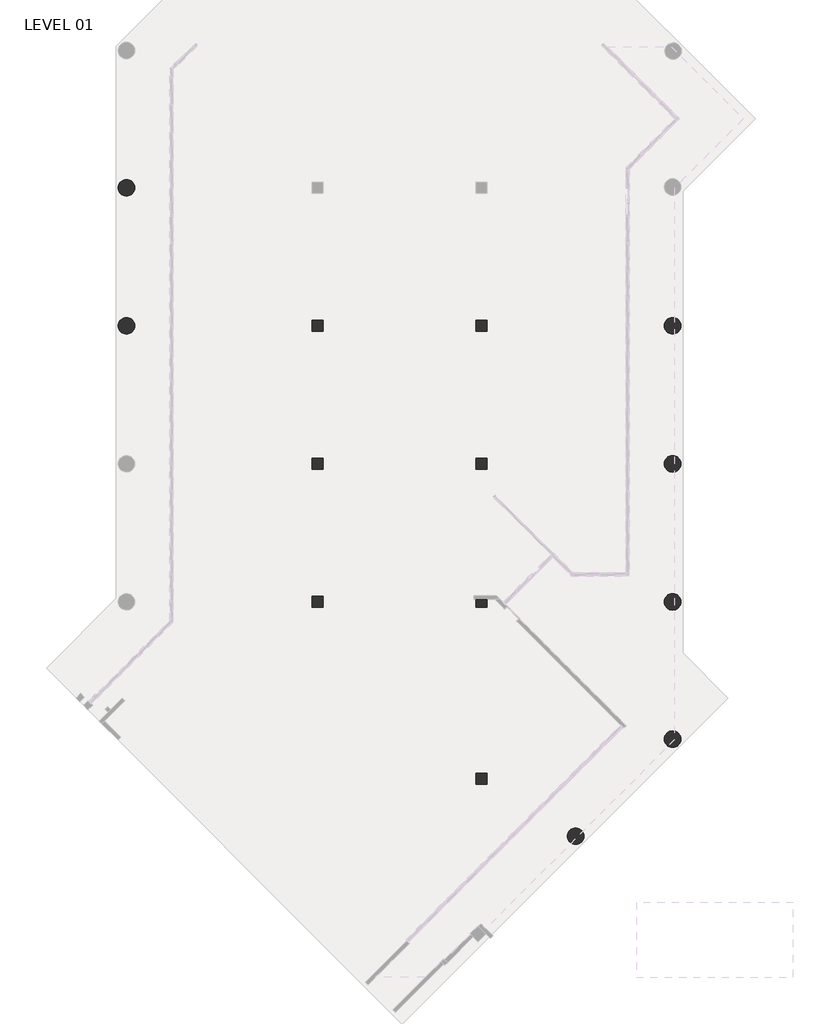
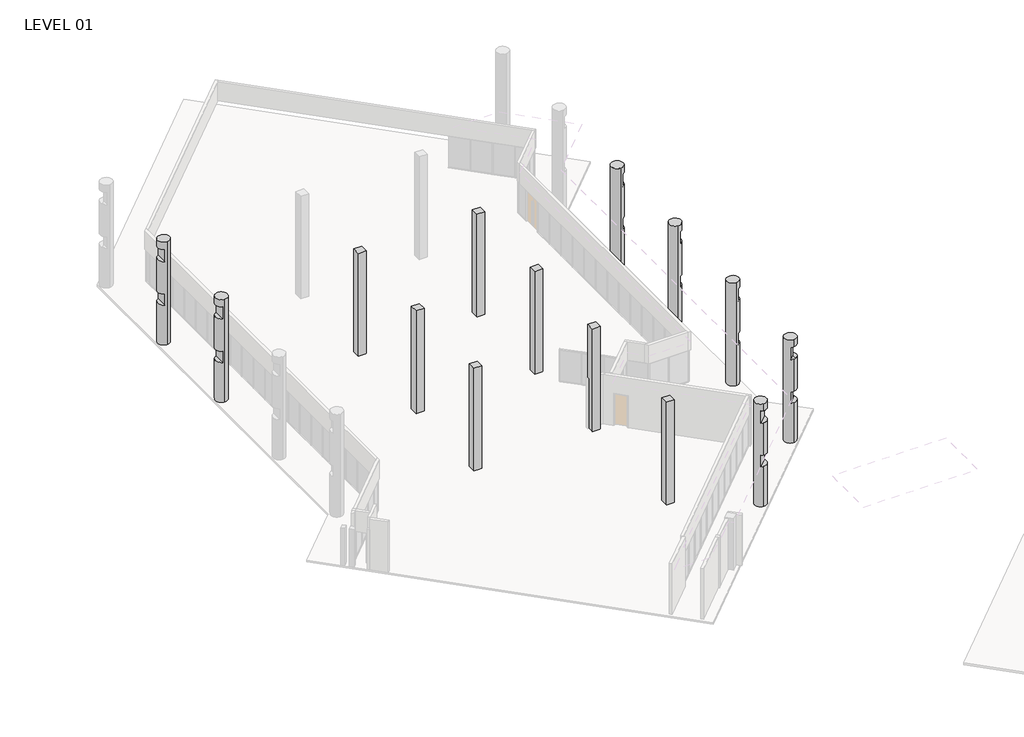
# One storey, part 17 of 24: 14 columns.
"""IFC4 building model written with IfcOpenShell, lengths in millimetres."""

from ifc_helpers import new_model, si_unit, frame, origin, place, context, project, spatial, polyline, circle_curve, outline, extrude, transform, mapped, element, save
from ifc_brep_helpers import plane_surface, cylinder_surface, advanced_brep
from components import column_f8a5f9a6

model = new_model("IFC4")

# Units and contexts
model_context = context("Model", 3, world=origin())
ifc_project = project(units=[si_unit("LENGTHUNIT", "METRE", prefix="MILLI")], contexts=[model_context])

# Site, building, storey
site = spatial("IfcSite", under=ifc_project)
building = spatial("IfcBuilding", under=site)
storey = spatial("IfcBuildingStorey", under=building, Name="LEVEL 01", Elevation=0.0)

# Columns
placement = place(None, origin())
element("IfcColumn", 1, ObjectType="Rectangular Column : 24\" x 24\"", at=placement, inside=storey, context=model_context, shape_type="SweptSolid", body=[
    extrude(outline(polyline([(45783.1675885, 8280.4), (46392.7675885, 8280.4), (46392.7675885, 4013.2), (46234.0175885, 4013.2), (46234.0175885, 0.0), (45783.1675885, 0.0), (45783.1675885, 8280.4)])), frame((-12984.7347164, 0.0, 0.0), z_axis=(1.0, 0.0, 0.0), x_axis=(0.0, 1.0, 0.0)), (0.0, 0.0, 1.0), 609.6),
])
column_shape = column_f8a5f9a6(model_context)
element("IfcColumn", 2, ObjectType="Rectangular Column : 24\" x 24\"", at=placement, inside=storey, context=model_context, shape_type="MappedRepresentation", body=[
    mapped(column_shape, transform((-21715.9847164, 61327.9675885, 0.0), x_axis=(0.0, 1.0, 0.0), y_axis=(-1.0, 0.0, 0.0), z_axis=(0.0, 0.0, 1.0))),
])
element("IfcColumn", 3, ObjectType="Rectangular Column : 24\" x 24\"", at=placement, inside=storey, context=model_context, shape_type="MappedRepresentation", body=[
    mapped(column_shape, transform((-21715.9847164, 53707.9675885, 0.0), x_axis=(0.0, 1.0, 0.0), y_axis=(-1.0, 0.0, 0.0), z_axis=(0.0, 0.0, 1.0))),
])
element("IfcColumn", 4, ObjectType="Rectangular Column : 24\" x 24\"", at=placement, inside=storey, context=model_context, shape_type="MappedRepresentation", body=[
    mapped(column_shape, transform((-21715.9847164, 46087.9675885, 0.0), x_axis=(0.0, 1.0, 0.0), y_axis=(-1.0, 0.0, 0.0), z_axis=(0.0, 0.0, 1.0))),
])
element("IfcColumn", 5, ObjectType="Rectangular Column : 24\" x 24\"", at=placement, inside=storey, context=model_context, shape_type="MappedRepresentation", body=[
    mapped(column_shape, transform((-12679.9347164, 36334.3675885, 0.0), x_axis=(0.0, 1.0, 0.0), y_axis=(-1.0, 0.0, 0.0), z_axis=(0.0, 0.0, 1.0))),
])
element("IfcColumn", 6, ObjectType="Rectangular Column : 24\" x 24\"", at=placement, inside=storey, context=model_context, shape_type="MappedRepresentation", body=[
    mapped(column_shape, transform((-12679.9347164, 53707.9675885, 0.0), x_axis=(0.0, 1.0, 0.0), y_axis=(-1.0, 0.0, 0.0), z_axis=(0.0, 0.0, 1.0))),
])
element("IfcColumn", 7, ObjectType="Rectangular Column : 24\" x 24\"", at=placement, inside=storey, context=model_context, shape_type="MappedRepresentation", body=[
    mapped(column_shape, transform((-12679.9347164, 61327.9675885, 0.0), x_axis=(0.0, 1.0, 0.0), y_axis=(-1.0, 0.0, 0.0), z_axis=(0.0, 0.0, 1.0))),
])
element("IfcColumn", 8, ObjectType="Round Column : 36\" Diameter", at=placement, inside=storey, context=model_context, shape_type="AdvancedBrep", body=[
    advanced_brep(
    [(-2113.5347164, 38052.8516865, 0.0), (-2113.5347164, 38967.2516865, 0.0), (-1656.3347164, 38510.0516865, 0.0), (-2113.5347164, 38052.8516865, 3225.8), (-2310.5716429, 38097.488613, 3225.8), (-2310.5716429, 38097.488613, 4140.2), (-2113.5347164, 38052.8516865, 4140.2), (-2113.5347164, 38052.8516865, 6731.0), (-2310.5716429, 38097.488613, 6731.0), (-2310.5716429, 38097.488613, 7721.6), (-2113.5347164, 38052.8516865, 7721.6), (-2113.5347164, 38052.8516865, 8280.4), (-2113.5347164, 38967.2516865, 8280.4), (-1656.3347164, 38510.0516865, 3225.8), (-1790.245496, 38186.7624661, 3225.8), (-1656.3347164, 38510.0516865, 8280.4), (-1656.3347164, 38510.0516865, 7721.6), (-1961.1347164, 38941.1039803, 7721.6), (-1961.1347164, 38941.1039803, 6731.0), (-1656.3347164, 38510.0516865, 6731.0), (-1656.3347164, 38510.0516865, 4140.2), (-1700.9716429, 38707.088613, 4140.2), (-1961.1347164, 38941.1039803, 4140.2), (-1961.1347164, 38941.1039803, 3225.8), (-1700.9716429, 38707.088613, 3225.8), (-1961.1347164, 38078.9993926, 6731.0), (-1961.1347164, 38446.9255396, 6731.0), (-1961.1347164, 38446.9255396, 7721.6), (-1961.1347164, 38078.9993926, 7721.6), (-1790.245496, 38186.7624661, 6731.0), (-1790.245496, 38186.7624661, 7721.6), (-1961.1347164, 38446.9255396, 3225.8), (-1961.1347164, 38446.9255396, 4140.2), (-1790.245496, 38186.7624661, 4140.2)],
    [
        (0, 1, circle_curve(frame((-2113.5347164, 38510.0516865, 0.0), z_axis=(0.0, 0.0, -1.0), x_axis=(0.0, 1.0, 0.0)), 457.2)),
        (1, 2, circle_curve(frame((-2113.5347164, 38510.0516865, 0.0), z_axis=(0.0, 0.0, -1.0), x_axis=(0.0, 1.0, 0.0)), 457.2)),
        (2, 0, circle_curve(frame((-2113.5347164, 38510.0516865, 0.0), z_axis=(0.0, 0.0, -1.0), x_axis=(0.0, 1.0, 0.0)), 457.2)),
        (0, 3),
        (3, 4, circle_curve(frame((-2113.5347164, 38510.0516865, 3225.8), z_axis=(0.0, 0.0, -1.0), x_axis=(0.0, 1.0, 0.0)), 457.2)),
        (4, 5),
        (5, 6, circle_curve(frame((-2113.5347164, 38510.0516865, 4140.2), z_axis=(0.0, 0.0, 1.0), x_axis=(0.0, 1.0, 0.0)), 457.2)),
        (6, 7),
        (7, 8, circle_curve(frame((-2113.5347164, 38510.0516865, 6731.0), z_axis=(0.0, 0.0, -1.0), x_axis=(0.0, 1.0, 0.0)), 457.2)),
        (8, 9),
        (9, 10, circle_curve(frame((-2113.5347164, 38510.0516865, 7721.6), z_axis=(0.0, 0.0, 1.0), x_axis=(0.0, 1.0, 0.0)), 457.2)),
        (10, 11),
        (11, 12, circle_curve(frame((-2113.5347164, 38510.0516865, 8280.4), z_axis=(0.0, 0.0, -1.0), x_axis=(0.0, 1.0, 0.0)), 457.2)),
        (12, 1),
        (2, 13),
        (13, 14, circle_curve(frame((-2113.5347164, 38510.0516865, 3225.8), z_axis=(0.0, 0.0, -1.0), x_axis=(0.0, 1.0, 0.0)), 457.2)),
        (14, 3, circle_curve(frame((-2113.5347164, 38510.0516865, 3225.8), z_axis=(0.0, 0.0, -1.0), x_axis=(0.0, 1.0, 0.0)), 457.2)),
        (12, 15, circle_curve(frame((-2113.5347164, 38510.0516865, 8280.4), z_axis=(0.0, 0.0, -1.0), x_axis=(0.0, 1.0, 0.0)), 457.2)),
        (15, 16),
        (16, 17, circle_curve(frame((-2113.5347164, 38510.0516865, 7721.6), z_axis=(0.0, 0.0, 1.0), x_axis=(0.0, 1.0, 0.0)), 457.2)),
        (17, 18),
        (18, 19, circle_curve(frame((-2113.5347164, 38510.0516865, 6731.0), z_axis=(0.0, 0.0, -1.0), x_axis=(0.0, 1.0, 0.0)), 457.2)),
        (19, 20),
        (20, 21, circle_curve(frame((-2113.5347164, 38510.0516865, 4140.2), z_axis=(0.0, 0.0, 1.0), x_axis=(0.0, 1.0, 0.0)), 457.2)),
        (21, 22, circle_curve(frame((-2113.5347164, 38510.0516865, 4140.2), z_axis=(0.0, 0.0, 1.0), x_axis=(0.0, 1.0, 0.0)), 457.2)),
        (22, 23),
        (23, 24, circle_curve(frame((-2113.5347164, 38510.0516865, 3225.8), z_axis=(0.0, 0.0, -1.0), x_axis=(0.0, 1.0, 0.0)), 457.2)),
        (24, 13, circle_curve(frame((-2113.5347164, 38510.0516865, 3225.8), z_axis=(0.0, 0.0, -1.0), x_axis=(0.0, 1.0, 0.0)), 457.2)),
        (11, 15, circle_curve(frame((-2113.5347164, 38510.0516865, 8280.4), z_axis=(0.0, 0.0, 1.0), x_axis=(0.0, 1.0, 0.0)), 457.2)),
        (7, 25, circle_curve(frame((-2113.5347164, 38510.0516865, 6731.0), z_axis=(0.0, 0.0, 1.0), x_axis=(0.0, 1.0, 0.0)), 457.2)),
        (25, 26),
        (26, 8),
        (9, 27),
        (27, 28),
        (28, 10, circle_curve(frame((-2113.5347164, 38510.0516865, 7721.6), z_axis=(0.0, 0.0, -1.0), x_axis=(0.0, 1.0, 0.0)), 457.2)),
        (17, 27),
        (27, 26),
        (26, 18),
        (29, 19, circle_curve(frame((-2113.5347164, 38510.0516865, 6731.0), z_axis=(0.0, 0.0, 1.0), x_axis=(0.0, 1.0, 0.0)), 457.2)),
        (25, 29, circle_curve(frame((-2113.5347164, 38510.0516865, 6731.0), z_axis=(0.0, 0.0, 1.0), x_axis=(0.0, 1.0, 0.0)), 457.2)),
        (16, 30, circle_curve(frame((-2113.5347164, 38510.0516865, 7721.6), z_axis=(0.0, 0.0, -1.0), x_axis=(0.0, 1.0, 0.0)), 457.2)),
        (30, 28, circle_curve(frame((-2113.5347164, 38510.0516865, 7721.6), z_axis=(0.0, 0.0, -1.0), x_axis=(0.0, 1.0, 0.0)), 457.2)),
        (4, 31),
        (31, 32),
        (32, 5),
        (24, 31),
        (32, 21),
        (20, 33, circle_curve(frame((-2113.5347164, 38510.0516865, 4140.2), z_axis=(0.0, 0.0, -1.0), x_axis=(0.0, 1.0, 0.0)), 457.2)),
        (33, 6, circle_curve(frame((-2113.5347164, 38510.0516865, 4140.2), z_axis=(0.0, 0.0, -1.0), x_axis=(0.0, 1.0, 0.0)), 457.2)),
        (31, 23),
        (22, 32),
    ],
    [
        plane_surface(frame((-2113.5347164, 38967.2516865, 0.0), z_axis=(0.0, 0.0, -1.0), x_axis=(-1.0, 0.0, 0.0))),
        cylinder_surface(frame((-2113.5347164, 38510.0516865, 0.0), z_axis=(0.0, 0.0, 1.0), x_axis=(0.0, 1.0, 0.0)), 457.2),
        plane_surface(frame((-2113.5347164, 38967.2516865, 8280.4), z_axis=(0.0, 0.0, 1.0), x_axis=(1.0, 0.0, 0.0))),
        plane_surface(frame((-17090.1966429, 22886.8113192, 6731.0), z_axis=(0.0, 0.0, 1.0000000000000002), x_axis=(-0.707106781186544, 0.7071067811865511, 0.0))),
        plane_surface(frame((-1700.9716429, 38276.0363192, 7721.6), z_axis=(0.0, 0.0, -1.0000000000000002), x_axis=(-0.707106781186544, 0.7071067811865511, 0.0))),
        plane_surface(frame((-1961.1347164, 43225.4792122, 6731.0), z_axis=(1.0, 0.0, 0.0), x_axis=(0.0, -1.0, 0.0))),
        plane_surface(frame((-1656.3347164, 38383.7993926, 6731.0), z_axis=(0.0, 0.0, 1.0), x_axis=(-1.0, 0.0, 0.0))),
        plane_surface(frame((-1656.3347164, 68863.7993926, 7721.6), z_axis=(0.0, 0.0, -1.0), x_axis=(-1.0, 0.0, 0.0))),
        plane_surface(frame((-5648.1829574, 34759.8772986, 3225.8), z_axis=(0.7071067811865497, -0.7071067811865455, 0.0), x_axis=(-0.7071067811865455, -0.7071067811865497, 0.0))),
        plane_surface(frame((-12249.0693491, 27727.938613, 3225.8), z_axis=(0.0, 0.0, 1.0), x_axis=(-0.7071067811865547, 0.7071067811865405, 0.0))),
        plane_surface(frame((688.3051934, 40665.3131555, 4140.2), z_axis=(0.0, 0.0, -1.0000000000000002), x_axis=(-0.7071067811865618, 0.7071067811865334, 0.0))),
        plane_surface(frame((-1961.1347164, 43225.4792122, 3225.8), z_axis=(1.0, 0.0, 0.0), x_axis=(0.0, -1.0, 0.0))),
        plane_surface(frame((-1656.3347164, 38383.7993926, 3225.8), z_axis=(0.0, 0.0, 1.0), x_axis=(-1.0, 0.0, 0.0))),
        plane_surface(frame((-1656.3347164, 68863.7993926, 4140.2), z_axis=(0.0, 0.0, -1.0), x_axis=(-1.0, 0.0, 0.0))),
        plane_surface(frame((-17303.5438143, 23104.5164416, 6731.0), z_axis=(0.7071067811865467, -0.7071067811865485, 0.0), x_axis=(-0.7071067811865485, -0.7071067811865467, 0.0))),
    ],
    [
        (0, [[1, 2, 3]]),
        (1, [[-1, 4, 5, 6, 7, 8, 9, 10, 11, 12, 13, 14]]),
        (1, [[-3, 15, 16, 17, -4]]),
        (1, [[-2, -14, 18, 19, 20, 21, 22, 23, 24, 25, 26, 27, 28, -15]]),
        (2, [[-13, 29, -18]]),
        (3, [[-9, 30, 31, 32]]),
        (4, [[-11, 33, 34, 35]]),
        (5, [[-21, 36, 37, 38]]),
        (6, [[39, -22, -38, -31, 40]]),
        (7, [[41, 42, -34, -36, -20]]),
        (1, [[-29, -12, -35, -42, -41, -19]]),
        (8, [[-6, 43, 44, 45]]),
        (9, [[-5, -17, -16, -28, 46, -43]]),
        (10, [[-7, -45, 47, -24, 48, 49]]),
        (1, [[-30, -8, -49, -48, -23, -39, -40]]),
        (11, [[50, -26, 51, -44]]),
        (12, [[-50, -46, -27]]),
        (13, [[-51, -25, -47]]),
        (14, [[-32, -37, -33, -10]]),
    ],
),
])
element("IfcColumn", 9, ObjectType="Round Column : 36\" Diameter", at=placement, inside=storey, context=model_context, shape_type="AdvancedBrep", body=[
    advanced_brep(
    [(-2113.5347164, 45630.7675885, 0.0), (-2113.5347164, 46545.1675885, 0.0), (-1656.3347164, 46087.9675885, 0.0), (-2113.5347164, 45630.7675885, 8280.4), (-2113.5347164, 46545.1675885, 8280.4), (-1656.3347164, 46087.9675885, 3225.8), (-1961.1347164, 45656.9152947, 3225.8), (-1961.1347164, 45656.9152947, 4140.2), (-1656.3347164, 46087.9675885, 4140.2), (-1656.3347164, 46087.9675885, 6731.0), (-1961.1347164, 45656.9152947, 6731.0), (-1961.1347164, 45656.9152947, 7721.6), (-1656.3347164, 46087.9675885, 7721.6), (-1656.3347164, 46087.9675885, 8280.4), (-1961.1347164, 46519.0198823, 7721.6), (-1961.1347164, 46519.0198823, 6731.0), (-1961.1347164, 46519.0198823, 4140.2), (-1961.1347164, 46519.0198823, 3225.8)],
    [
        (0, 1, circle_curve(frame((-2113.5347164, 46087.9675885, 0.0), z_axis=(0.0, 0.0, -1.0), x_axis=(0.0, 1.0, 0.0)), 457.2)),
        (1, 2, circle_curve(frame((-2113.5347164, 46087.9675885, 0.0), z_axis=(0.0, 0.0, -1.0), x_axis=(0.0, 1.0, 0.0)), 457.2)),
        (2, 0, circle_curve(frame((-2113.5347164, 46087.9675885, 0.0), z_axis=(0.0, 0.0, -1.0), x_axis=(0.0, 1.0, 0.0)), 457.2)),
        (0, 3),
        (3, 4, circle_curve(frame((-2113.5347164, 46087.9675885, 8280.4), z_axis=(0.0, 0.0, -1.0), x_axis=(0.0, 1.0, 0.0)), 457.2)),
        (4, 1),
        (2, 5),
        (5, 6, circle_curve(frame((-2113.5347164, 46087.9675885, 3225.8), z_axis=(0.0, 0.0, -1.0), x_axis=(0.0, 1.0, 0.0)), 457.2)),
        (6, 7),
        (7, 8, circle_curve(frame((-2113.5347164, 46087.9675885, 4140.2), z_axis=(0.0, 0.0, 1.0), x_axis=(0.0, 1.0, 0.0)), 457.2)),
        (8, 9),
        (9, 10, circle_curve(frame((-2113.5347164, 46087.9675885, 6731.0), z_axis=(0.0, 0.0, -1.0), x_axis=(0.0, 1.0, 0.0)), 457.2)),
        (10, 11),
        (11, 12, circle_curve(frame((-2113.5347164, 46087.9675885, 7721.6), z_axis=(0.0, 0.0, 1.0), x_axis=(0.0, 1.0, 0.0)), 457.2)),
        (12, 13),
        (13, 3, circle_curve(frame((-2113.5347164, 46087.9675885, 8280.4), z_axis=(0.0, 0.0, -1.0), x_axis=(0.0, 1.0, 0.0)), 457.2)),
        (4, 13, circle_curve(frame((-2113.5347164, 46087.9675885, 8280.4), z_axis=(0.0, 0.0, -1.0), x_axis=(0.0, 1.0, 0.0)), 457.2)),
        (12, 14, circle_curve(frame((-2113.5347164, 46087.9675885, 7721.6), z_axis=(0.0, 0.0, 1.0), x_axis=(0.0, 1.0, 0.0)), 457.2)),
        (14, 15),
        (15, 9, circle_curve(frame((-2113.5347164, 46087.9675885, 6731.0), z_axis=(0.0, 0.0, -1.0), x_axis=(0.0, 1.0, 0.0)), 457.2)),
        (8, 16, circle_curve(frame((-2113.5347164, 46087.9675885, 4140.2), z_axis=(0.0, 0.0, 1.0), x_axis=(0.0, 1.0, 0.0)), 457.2)),
        (16, 17),
        (17, 5, circle_curve(frame((-2113.5347164, 46087.9675885, 3225.8), z_axis=(0.0, 0.0, -1.0), x_axis=(0.0, 1.0, 0.0)), 457.2)),
        (6, 17),
        (16, 7),
        (10, 15),
        (14, 11),
    ],
    [
        plane_surface(frame((-2113.5347164, 46545.1675885, 0.0), z_axis=(0.0, 0.0, -1.0), x_axis=(-1.0, 0.0, 0.0))),
        cylinder_surface(frame((-2113.5347164, 46087.9675885, 0.0), z_axis=(0.0, 0.0, 1.0), x_axis=(0.0, 1.0, 0.0)), 457.2),
        plane_surface(frame((-2113.5347164, 46545.1675885, 8280.4), z_axis=(0.0, 0.0, 1.0), x_axis=(1.0, 0.0, 0.0))),
        plane_surface(frame((-1961.1347164, 43225.4792122, 3225.8), z_axis=(1.0, 0.0, 0.0), x_axis=(0.0, -1.0, 0.0))),
        plane_surface(frame((-1656.3347164, 38383.7993926, 3225.8), z_axis=(0.0, 0.0, 1.0), x_axis=(-1.0, 0.0, 0.0))),
        plane_surface(frame((-1656.3347164, 68863.7993926, 4140.2), z_axis=(0.0, 0.0, -1.0), x_axis=(-1.0, 0.0, 0.0))),
        plane_surface(frame((-1961.1347164, 43225.4792122, 6731.0), z_axis=(1.0, 0.0, 0.0), x_axis=(0.0, -1.0, 0.0))),
        plane_surface(frame((-1656.3347164, 38383.7993926, 6731.0), z_axis=(0.0, 0.0, 1.0), x_axis=(-1.0, 0.0, 0.0))),
        plane_surface(frame((-1656.3347164, 68863.7993926, 7721.6), z_axis=(0.0, 0.0, -1.0), x_axis=(-1.0, 0.0, 0.0))),
    ],
    [
        (0, [[1, 2, 3]]),
        (1, [[-1, 4, 5, 6]]),
        (1, [[-3, 7, 8, 9, 10, 11, 12, 13, 14, 15, 16, -4]]),
        (1, [[-2, -6, 17, -15, 18, 19, 20, -11, 21, 22, 23, -7]]),
        (2, [[-5, -16, -17]]),
        (3, [[-9, 24, -22, 25]]),
        (4, [[-8, -23, -24]]),
        (5, [[-10, -25, -21]]),
        (6, [[26, -19, 27, -13]]),
        (7, [[-26, -12, -20]]),
        (8, [[-27, -18, -14]]),
    ],
),
])
element("IfcColumn", 10, ObjectType="Round Column : 36\" Diameter", at=placement, inside=storey, context=model_context, shape_type="AdvancedBrep", body=[
    advanced_brep(
    [(-2113.5347164, 53250.7675885, 0.0), (-2113.5347164, 54165.1675885, 0.0), (-1656.3347164, 53707.9675885, 0.0), (-2113.5347164, 53250.7675885, 8280.4), (-2113.5347164, 54165.1675885, 8280.4), (-1656.3347164, 53707.9675885, 3225.8), (-1961.1347164, 53276.9152947, 3225.8), (-1961.1347164, 53276.9152947, 4140.2), (-1656.3347164, 53707.9675885, 4140.2), (-1656.3347164, 53707.9675885, 6731.0), (-1961.1347164, 53276.9152947, 6731.0), (-1961.1347164, 53276.9152947, 7721.6), (-1656.3347164, 53707.9675885, 7721.6), (-1656.3347164, 53707.9675885, 8280.4), (-1961.1347164, 54139.0198823, 7721.6), (-1961.1347164, 54139.0198823, 6731.0), (-1961.1347164, 54139.0198823, 4140.2), (-1961.1347164, 54139.0198823, 3225.8)],
    [
        (0, 1, circle_curve(frame((-2113.5347164, 53707.9675885, 0.0), z_axis=(0.0, 0.0, -1.0), x_axis=(0.0, 1.0, 0.0)), 457.2)),
        (1, 2, circle_curve(frame((-2113.5347164, 53707.9675885, 0.0), z_axis=(0.0, 0.0, -1.0), x_axis=(0.0, 1.0, 0.0)), 457.2)),
        (2, 0, circle_curve(frame((-2113.5347164, 53707.9675885, 0.0), z_axis=(0.0, 0.0, -1.0), x_axis=(0.0, 1.0, 0.0)), 457.2)),
        (0, 3),
        (3, 4, circle_curve(frame((-2113.5347164, 53707.9675885, 8280.4), z_axis=(0.0, 0.0, -1.0), x_axis=(0.0, 1.0, 0.0)), 457.2)),
        (4, 1),
        (2, 5),
        (5, 6, circle_curve(frame((-2113.5347164, 53707.9675885, 3225.8), z_axis=(0.0, 0.0, -1.0), x_axis=(0.0, 1.0, 0.0)), 457.2)),
        (6, 7),
        (7, 8, circle_curve(frame((-2113.5347164, 53707.9675885, 4140.2), z_axis=(0.0, 0.0, 1.0), x_axis=(0.0, 1.0, 0.0)), 457.2)),
        (8, 9),
        (9, 10, circle_curve(frame((-2113.5347164, 53707.9675885, 6731.0), z_axis=(0.0, 0.0, -1.0), x_axis=(0.0, 1.0, 0.0)), 457.2)),
        (10, 11),
        (11, 12, circle_curve(frame((-2113.5347164, 53707.9675885, 7721.6), z_axis=(0.0, 0.0, 1.0), x_axis=(0.0, 1.0, 0.0)), 457.2)),
        (12, 13),
        (13, 3, circle_curve(frame((-2113.5347164, 53707.9675885, 8280.4), z_axis=(0.0, 0.0, -1.0), x_axis=(0.0, 1.0, 0.0)), 457.2)),
        (4, 13, circle_curve(frame((-2113.5347164, 53707.9675885, 8280.4), z_axis=(0.0, 0.0, -1.0), x_axis=(0.0, 1.0, 0.0)), 457.2)),
        (12, 14, circle_curve(frame((-2113.5347164, 53707.9675885, 7721.6), z_axis=(0.0, 0.0, 1.0), x_axis=(0.0, 1.0, 0.0)), 457.2)),
        (14, 15),
        (15, 9, circle_curve(frame((-2113.5347164, 53707.9675885, 6731.0), z_axis=(0.0, 0.0, -1.0), x_axis=(0.0, 1.0, 0.0)), 457.2)),
        (8, 16, circle_curve(frame((-2113.5347164, 53707.9675885, 4140.2), z_axis=(0.0, 0.0, 1.0), x_axis=(0.0, 1.0, 0.0)), 457.2)),
        (16, 17),
        (17, 5, circle_curve(frame((-2113.5347164, 53707.9675885, 3225.8), z_axis=(0.0, 0.0, -1.0), x_axis=(0.0, 1.0, 0.0)), 457.2)),
        (6, 17),
        (16, 7),
        (10, 15),
        (14, 11),
    ],
    [
        plane_surface(frame((-2113.5347164, 54165.1675885, 0.0), z_axis=(0.0, 0.0, -1.0), x_axis=(-1.0, 0.0, 0.0))),
        cylinder_surface(frame((-2113.5347164, 53707.9675885, 0.0), z_axis=(0.0, 0.0, 1.0), x_axis=(0.0, 1.0, 0.0)), 457.2),
        plane_surface(frame((-2113.5347164, 54165.1675885, 8280.4), z_axis=(0.0, 0.0, 1.0), x_axis=(1.0, 0.0, 0.0))),
        plane_surface(frame((-1961.1347164, 43225.4792122, 3225.8), z_axis=(1.0, 0.0, 0.0), x_axis=(0.0, -1.0, 0.0))),
        plane_surface(frame((-1656.3347164, 38383.7993926, 3225.8), z_axis=(0.0, 0.0, 1.0), x_axis=(-1.0, 0.0, 0.0))),
        plane_surface(frame((-1656.3347164, 68863.7993926, 4140.2), z_axis=(0.0, 0.0, -1.0), x_axis=(-1.0, 0.0, 0.0))),
        plane_surface(frame((-1961.1347164, 43225.4792122, 6731.0), z_axis=(1.0, 0.0, 0.0), x_axis=(0.0, -1.0, 0.0))),
        plane_surface(frame((-1656.3347164, 38383.7993926, 6731.0), z_axis=(0.0, 0.0, 1.0), x_axis=(-1.0, 0.0, 0.0))),
        plane_surface(frame((-1656.3347164, 68863.7993926, 7721.6), z_axis=(0.0, 0.0, -1.0), x_axis=(-1.0, 0.0, 0.0))),
    ],
    [
        (0, [[1, 2, 3]]),
        (1, [[-1, 4, 5, 6]]),
        (1, [[-3, 7, 8, 9, 10, 11, 12, 13, 14, 15, 16, -4]]),
        (1, [[-2, -6, 17, -15, 18, 19, 20, -11, 21, 22, 23, -7]]),
        (2, [[-5, -16, -17]]),
        (3, [[-9, 24, -22, 25]]),
        (4, [[-8, -23, -24]]),
        (5, [[-10, -25, -21]]),
        (6, [[26, -19, 27, -13]]),
        (7, [[-26, -12, -20]]),
        (8, [[-27, -18, -14]]),
    ],
),
])
element("IfcColumn", 11, ObjectType="Round Column : 36\" Diameter", at=placement, inside=storey, context=model_context, shape_type="AdvancedBrep", body=[
    advanced_brep(
    [(-2113.5347164, 60870.7675885, 0.0), (-2113.5347164, 61785.1675885, 0.0), (-1656.3347164, 61327.9675885, 0.0), (-2113.5347164, 60870.7675885, 8280.4), (-2113.5347164, 61785.1675885, 8280.4), (-1656.3347164, 61327.9675885, 3225.8), (-1961.1347164, 60896.9152947, 3225.8), (-1961.1347164, 60896.9152947, 4140.2), (-1656.3347164, 61327.9675885, 4140.2), (-1656.3347164, 61327.9675885, 6731.0), (-1961.1347164, 60896.9152947, 6731.0), (-1961.1347164, 60896.9152947, 7721.6), (-1656.3347164, 61327.9675885, 7721.6), (-1656.3347164, 61327.9675885, 8280.4), (-1961.1347164, 61759.0198823, 7721.6), (-1961.1347164, 61759.0198823, 6731.0), (-1961.1347164, 61759.0198823, 4140.2), (-1961.1347164, 61759.0198823, 3225.8)],
    [
        (0, 1, circle_curve(frame((-2113.5347164, 61327.9675885, 0.0), z_axis=(0.0, 0.0, -1.0), x_axis=(0.0, 1.0, 0.0)), 457.2)),
        (1, 2, circle_curve(frame((-2113.5347164, 61327.9675885, 0.0), z_axis=(0.0, 0.0, -1.0), x_axis=(0.0, 1.0, 0.0)), 457.2)),
        (2, 0, circle_curve(frame((-2113.5347164, 61327.9675885, 0.0), z_axis=(0.0, 0.0, -1.0), x_axis=(0.0, 1.0, 0.0)), 457.2)),
        (0, 3),
        (3, 4, circle_curve(frame((-2113.5347164, 61327.9675885, 8280.4), z_axis=(0.0, 0.0, -1.0), x_axis=(0.0, 1.0, 0.0)), 457.2)),
        (4, 1),
        (2, 5),
        (5, 6, circle_curve(frame((-2113.5347164, 61327.9675885, 3225.8), z_axis=(0.0, 0.0, -1.0), x_axis=(0.0, 1.0, 0.0)), 457.2)),
        (6, 7),
        (7, 8, circle_curve(frame((-2113.5347164, 61327.9675885, 4140.2), z_axis=(0.0, 0.0, 1.0), x_axis=(0.0, 1.0, 0.0)), 457.2)),
        (8, 9),
        (9, 10, circle_curve(frame((-2113.5347164, 61327.9675885, 6731.0), z_axis=(0.0, 0.0, -1.0), x_axis=(0.0, 1.0, 0.0)), 457.2)),
        (10, 11),
        (11, 12, circle_curve(frame((-2113.5347164, 61327.9675885, 7721.6), z_axis=(0.0, 0.0, 1.0), x_axis=(0.0, 1.0, 0.0)), 457.2)),
        (12, 13),
        (13, 3, circle_curve(frame((-2113.5347164, 61327.9675885, 8280.4), z_axis=(0.0, 0.0, -1.0), x_axis=(0.0, 1.0, 0.0)), 457.2)),
        (4, 13, circle_curve(frame((-2113.5347164, 61327.9675885, 8280.4), z_axis=(0.0, 0.0, -1.0), x_axis=(0.0, 1.0, 0.0)), 457.2)),
        (12, 14, circle_curve(frame((-2113.5347164, 61327.9675885, 7721.6), z_axis=(0.0, 0.0, 1.0), x_axis=(0.0, 1.0, 0.0)), 457.2)),
        (14, 15),
        (15, 9, circle_curve(frame((-2113.5347164, 61327.9675885, 6731.0), z_axis=(0.0, 0.0, -1.0), x_axis=(0.0, 1.0, 0.0)), 457.2)),
        (8, 16, circle_curve(frame((-2113.5347164, 61327.9675885, 4140.2), z_axis=(0.0, 0.0, 1.0), x_axis=(0.0, 1.0, 0.0)), 457.2)),
        (16, 17),
        (17, 5, circle_curve(frame((-2113.5347164, 61327.9675885, 3225.8), z_axis=(0.0, 0.0, -1.0), x_axis=(0.0, 1.0, 0.0)), 457.2)),
        (6, 17),
        (16, 7),
        (10, 15),
        (14, 11),
    ],
    [
        plane_surface(frame((-2113.5347164, 61785.1675885, 0.0), z_axis=(0.0, 0.0, -1.0), x_axis=(-1.0, 0.0, 0.0))),
        cylinder_surface(frame((-2113.5347164, 61327.9675885, 0.0), z_axis=(0.0, 0.0, 1.0), x_axis=(0.0, 1.0, 0.0)), 457.2),
        plane_surface(frame((-2113.5347164, 61785.1675885, 8280.4), z_axis=(0.0, 0.0, 1.0), x_axis=(1.0, 0.0, 0.0))),
        plane_surface(frame((-1961.1347164, 43225.4792122, 3225.8), z_axis=(1.0, 0.0, 0.0), x_axis=(0.0, -1.0, 0.0))),
        plane_surface(frame((-1656.3347164, 38383.7993926, 3225.8), z_axis=(0.0, 0.0, 1.0), x_axis=(-1.0, 0.0, 0.0))),
        plane_surface(frame((-1656.3347164, 68863.7993926, 4140.2), z_axis=(0.0, 0.0, -1.0), x_axis=(-1.0, 0.0, 0.0))),
        plane_surface(frame((-1961.1347164, 43225.4792122, 6731.0), z_axis=(1.0, 0.0, 0.0), x_axis=(0.0, -1.0, 0.0))),
        plane_surface(frame((-1656.3347164, 38383.7993926, 6731.0), z_axis=(0.0, 0.0, 1.0), x_axis=(-1.0, 0.0, 0.0))),
        plane_surface(frame((-1656.3347164, 68863.7993926, 7721.6), z_axis=(0.0, 0.0, -1.0), x_axis=(-1.0, 0.0, 0.0))),
    ],
    [
        (0, [[1, 2, 3]]),
        (1, [[-1, 4, 5, 6]]),
        (1, [[-3, 7, 8, 9, 10, 11, 12, 13, 14, 15, 16, -4]]),
        (1, [[-2, -6, 17, -15, 18, 19, 20, -11, 21, 22, 23, -7]]),
        (2, [[-5, -16, -17]]),
        (3, [[-9, 24, -22, 25]]),
        (4, [[-8, -23, -24]]),
        (5, [[-10, -25, -21]]),
        (6, [[26, -19, 27, -13]]),
        (7, [[-26, -12, -20]]),
        (8, [[-27, -18, -14]]),
    ],
),
])
element("IfcColumn", 12, ObjectType="Round Column : 36\" Diameter", at=placement, inside=storey, context=model_context, shape_type="AdvancedBrep", body=[
    advanced_brep(
    [(-32282.3847164, 68490.7675885, 0.0), (-32282.3847164, 69405.1675885, 0.0), (-31825.1847164, 68947.9675885, 0.0), (-32282.3847164, 68490.7675885, 8280.4), (-32282.3847164, 69405.1675885, 8280.4), (-32434.7847164, 69379.0198823, 3225.8), (-32434.7847164, 69379.0198823, 4140.2), (-32739.5847164, 68947.9675885, 4140.2), (-32434.7847164, 68516.9152947, 4140.2), (-32434.7847164, 68516.9152947, 3225.8), (-32739.5847164, 68947.9675885, 3225.8), (-32434.7847164, 69379.0198823, 6731.0), (-32434.7847164, 69379.0198823, 7721.6), (-32739.5847164, 68947.9675885, 7721.6), (-32434.7847164, 68516.9152947, 7721.6), (-32434.7847164, 68516.9152947, 6731.0), (-32739.5847164, 68947.9675885, 6731.0), (-31825.1847164, 68947.9675885, 8280.4)],
    [
        (0, 1, circle_curve(frame((-32282.3847164, 68947.9675885, 0.0), z_axis=(0.0, 0.0, -1.0), x_axis=(0.0, 1.0, 0.0)), 457.2)),
        (1, 2, circle_curve(frame((-32282.3847164, 68947.9675885, 0.0), z_axis=(0.0, 0.0, -1.0), x_axis=(0.0, 1.0, 0.0)), 457.2)),
        (2, 0, circle_curve(frame((-32282.3847164, 68947.9675885, 0.0), z_axis=(0.0, 0.0, -1.0), x_axis=(0.0, 1.0, 0.0)), 457.2)),
        (0, 3),
        (3, 4, circle_curve(frame((-32282.3847164, 68947.9675885, 8280.4), z_axis=(0.0, 0.0, -1.0), x_axis=(0.0, 1.0, 0.0)), 457.2)),
        (4, 1),
        (5, 6),
        (6, 7, circle_curve(frame((-32282.3847164, 68947.9675885, 4140.2), z_axis=(0.0, 0.0, 1.0), x_axis=(0.0, 1.0, 0.0)), 457.2)),
        (7, 8, circle_curve(frame((-32282.3847164, 68947.9675885, 4140.2), z_axis=(0.0, 0.0, 1.0), x_axis=(0.0, 1.0, 0.0)), 457.2)),
        (8, 9),
        (9, 10, circle_curve(frame((-32282.3847164, 68947.9675885, 3225.8), z_axis=(0.0, 0.0, -1.0), x_axis=(0.0, 1.0, 0.0)), 457.2)),
        (10, 5, circle_curve(frame((-32282.3847164, 68947.9675885, 3225.8), z_axis=(0.0, 0.0, -1.0), x_axis=(0.0, 1.0, 0.0)), 457.2)),
        (11, 12),
        (12, 13, circle_curve(frame((-32282.3847164, 68947.9675885, 7721.6), z_axis=(0.0, 0.0, 1.0), x_axis=(0.0, 1.0, 0.0)), 457.2)),
        (13, 14, circle_curve(frame((-32282.3847164, 68947.9675885, 7721.6), z_axis=(0.0, 0.0, 1.0), x_axis=(0.0, 1.0, 0.0)), 457.2)),
        (14, 15),
        (15, 16, circle_curve(frame((-32282.3847164, 68947.9675885, 6731.0), z_axis=(0.0, 0.0, -1.0), x_axis=(0.0, 1.0, 0.0)), 457.2)),
        (16, 11, circle_curve(frame((-32282.3847164, 68947.9675885, 6731.0), z_axis=(0.0, 0.0, -1.0), x_axis=(0.0, 1.0, 0.0)), 457.2)),
        (2, 17),
        (17, 3, circle_curve(frame((-32282.3847164, 68947.9675885, 8280.4), z_axis=(0.0, 0.0, -1.0), x_axis=(0.0, 1.0, 0.0)), 457.2)),
        (4, 17, circle_curve(frame((-32282.3847164, 68947.9675885, 8280.4), z_axis=(0.0, 0.0, -1.0), x_axis=(0.0, 1.0, 0.0)), 457.2)),
        (5, 9),
        (8, 6),
        (11, 15),
        (14, 12),
    ],
    [
        plane_surface(frame((-32282.3847164, 69405.1675885, 0.0), z_axis=(0.0, 0.0, -1.0), x_axis=(-1.0, 0.0, 0.0))),
        cylinder_surface(frame((-32282.3847164, 68947.9675885, 0.0), z_axis=(0.0, 0.0, 1.0), x_axis=(0.0, 1.0, 0.0)), 457.2),
        plane_surface(frame((-32282.3847164, 69405.1675885, 8280.4), z_axis=(0.0, 0.0, 1.0), x_axis=(1.0, 0.0, 0.0))),
        plane_surface(frame((-32434.7847164, 76715.2619313, 3225.8), z_axis=(-1.0, 0.0, 0.0), x_axis=(0.0, 1.0, 0.0))),
        plane_surface(frame((-32739.5847164, 76652.1357844, 3225.8), z_axis=(0.0, 0.0, 1.0), x_axis=(1.0, 0.0, 0.0))),
        plane_surface(frame((-32739.5847164, 46172.1357844, 4140.2), z_axis=(0.0, 0.0, -1.0), x_axis=(1.0, 0.0, 0.0))),
        plane_surface(frame((-32434.7847164, 76715.2619313, 6731.0), z_axis=(-1.0, 0.0, 0.0), x_axis=(0.0, 1.0, 0.0))),
        plane_surface(frame((-32739.5847164, 76652.1357844, 6731.0), z_axis=(0.0, 0.0, 1.0), x_axis=(1.0, 0.0, 0.0))),
        plane_surface(frame((-32739.5847164, 46172.1357844, 7721.6), z_axis=(0.0, 0.0, -1.0), x_axis=(1.0, 0.0, 0.0))),
    ],
    [
        (0, [[1, 2, 3]]),
        (1, [[-1, 4, 5, 6], [7, 8, 9, 10, 11, 12], [13, 14, 15, 16, 17, 18]]),
        (1, [[-3, 19, 20, -4]]),
        (1, [[-2, -6, 21, -19]]),
        (2, [[-5, -20, -21]]),
        (3, [[-7, 22, -10, 23]]),
        (4, [[-12, -11, -22]]),
        (5, [[-9, -8, -23]]),
        (6, [[24, -16, 25, -13]]),
        (7, [[-24, -18, -17]]),
        (8, [[-25, -15, -14]]),
    ],
),
])
element("IfcColumn", 13, ObjectType="Round Column : 36\" Diameter", at=placement, inside=storey, context=model_context, shape_type="AdvancedBrep", body=[
    advanced_brep(
    [(-32282.3847164, 60870.7675885, 0.0), (-32282.3847164, 61785.1675885, 0.0), (-31825.1847164, 61327.9675885, 0.0), (-32282.3847164, 60870.7675885, 8280.4), (-32282.3847164, 61785.1675885, 8280.4), (-32434.7847164, 61759.0198823, 3225.8), (-32434.7847164, 61759.0198823, 4140.2), (-32739.5847164, 61327.9675885, 4140.2), (-32434.7847164, 60896.9152947, 4140.2), (-32434.7847164, 60896.9152947, 3225.8), (-32739.5847164, 61327.9675885, 3225.8), (-32434.7847164, 61759.0198823, 6731.0), (-32434.7847164, 61759.0198823, 7721.6), (-32739.5847164, 61327.9675885, 7721.6), (-32434.7847164, 60896.9152947, 7721.6), (-32434.7847164, 60896.9152947, 6731.0), (-32739.5847164, 61327.9675885, 6731.0), (-31825.1847164, 61327.9675885, 8280.4)],
    [
        (0, 1, circle_curve(frame((-32282.3847164, 61327.9675885, 0.0), z_axis=(0.0, 0.0, -1.0), x_axis=(0.0, 1.0, 0.0)), 457.2)),
        (1, 2, circle_curve(frame((-32282.3847164, 61327.9675885, 0.0), z_axis=(0.0, 0.0, -1.0), x_axis=(0.0, 1.0, 0.0)), 457.2)),
        (2, 0, circle_curve(frame((-32282.3847164, 61327.9675885, 0.0), z_axis=(0.0, 0.0, -1.0), x_axis=(0.0, 1.0, 0.0)), 457.2)),
        (0, 3),
        (3, 4, circle_curve(frame((-32282.3847164, 61327.9675885, 8280.4), z_axis=(0.0, 0.0, -1.0), x_axis=(0.0, 1.0, 0.0)), 457.2)),
        (4, 1),
        (5, 6),
        (6, 7, circle_curve(frame((-32282.3847164, 61327.9675885, 4140.2), z_axis=(0.0, 0.0, 1.0), x_axis=(0.0, 1.0, 0.0)), 457.2)),
        (7, 8, circle_curve(frame((-32282.3847164, 61327.9675885, 4140.2), z_axis=(0.0, 0.0, 1.0), x_axis=(0.0, 1.0, 0.0)), 457.2)),
        (8, 9),
        (9, 10, circle_curve(frame((-32282.3847164, 61327.9675885, 3225.8), z_axis=(0.0, 0.0, -1.0), x_axis=(0.0, 1.0, 0.0)), 457.2)),
        (10, 5, circle_curve(frame((-32282.3847164, 61327.9675885, 3225.8), z_axis=(0.0, 0.0, -1.0), x_axis=(0.0, 1.0, 0.0)), 457.2)),
        (11, 12),
        (12, 13, circle_curve(frame((-32282.3847164, 61327.9675885, 7721.6), z_axis=(0.0, 0.0, 1.0), x_axis=(0.0, 1.0, 0.0)), 457.2)),
        (13, 14, circle_curve(frame((-32282.3847164, 61327.9675885, 7721.6), z_axis=(0.0, 0.0, 1.0), x_axis=(0.0, 1.0, 0.0)), 457.2)),
        (14, 15),
        (15, 16, circle_curve(frame((-32282.3847164, 61327.9675885, 6731.0), z_axis=(0.0, 0.0, -1.0), x_axis=(0.0, 1.0, 0.0)), 457.2)),
        (16, 11, circle_curve(frame((-32282.3847164, 61327.9675885, 6731.0), z_axis=(0.0, 0.0, -1.0), x_axis=(0.0, 1.0, 0.0)), 457.2)),
        (2, 17),
        (17, 3, circle_curve(frame((-32282.3847164, 61327.9675885, 8280.4), z_axis=(0.0, 0.0, -1.0), x_axis=(0.0, 1.0, 0.0)), 457.2)),
        (4, 17, circle_curve(frame((-32282.3847164, 61327.9675885, 8280.4), z_axis=(0.0, 0.0, -1.0), x_axis=(0.0, 1.0, 0.0)), 457.2)),
        (5, 9),
        (8, 6),
        (11, 15),
        (14, 12),
    ],
    [
        plane_surface(frame((-32282.3847164, 61785.1675885, 0.0), z_axis=(0.0, 0.0, -1.0), x_axis=(-1.0, 0.0, 0.0))),
        cylinder_surface(frame((-32282.3847164, 61327.9675885, 0.0), z_axis=(0.0, 0.0, 1.0), x_axis=(0.0, 1.0, 0.0)), 457.2),
        plane_surface(frame((-32282.3847164, 61785.1675885, 8280.4), z_axis=(0.0, 0.0, 1.0), x_axis=(1.0, 0.0, 0.0))),
        plane_surface(frame((-32434.7847164, 76715.2619313, 3225.8), z_axis=(-1.0, 0.0, 0.0), x_axis=(0.0, 1.0, 0.0))),
        plane_surface(frame((-32739.5847164, 76652.1357844, 3225.8), z_axis=(0.0, 0.0, 1.0), x_axis=(1.0, 0.0, 0.0))),
        plane_surface(frame((-32739.5847164, 46172.1357844, 4140.2), z_axis=(0.0, 0.0, -1.0), x_axis=(1.0, 0.0, 0.0))),
        plane_surface(frame((-32434.7847164, 76715.2619313, 6731.0), z_axis=(-1.0, 0.0, 0.0), x_axis=(0.0, 1.0, 0.0))),
        plane_surface(frame((-32739.5847164, 76652.1357844, 6731.0), z_axis=(0.0, 0.0, 1.0), x_axis=(1.0, 0.0, 0.0))),
        plane_surface(frame((-32739.5847164, 46172.1357844, 7721.6), z_axis=(0.0, 0.0, -1.0), x_axis=(1.0, 0.0, 0.0))),
    ],
    [
        (0, [[1, 2, 3]]),
        (1, [[-1, 4, 5, 6], [7, 8, 9, 10, 11, 12], [13, 14, 15, 16, 17, 18]]),
        (1, [[-3, 19, 20, -4]]),
        (1, [[-2, -6, 21, -19]]),
        (2, [[-5, -20, -21]]),
        (3, [[-7, 22, -10, 23]]),
        (4, [[-12, -11, -22]]),
        (5, [[-9, -8, -23]]),
        (6, [[24, -16, 25, -13]]),
        (7, [[-24, -18, -17]]),
        (8, [[-25, -15, -14]]),
    ],
),
])
element("IfcColumn", 14, ObjectType="Round Column : 36\" Diameter", at=placement, inside=storey, context=model_context, shape_type="AdvancedBrep", body=[
    advanced_brep(
    [(-7471.7517654, 32694.6346375, 0.0), (-7471.7517654, 33609.0346375, 0.0), (-7014.5517654, 33151.8346375, 0.0), (-7471.7517654, 32694.6346375, 3225.8), (-7668.7886919, 32739.271564, 3225.8), (-7668.7886919, 32739.271564, 4140.2), (-7471.7517654, 32694.6346375, 4140.2), (-7471.7517654, 32694.6346375, 6731.0), (-7668.7886919, 32739.271564, 6731.0), (-7668.7886919, 32739.271564, 7721.6), (-7471.7517654, 32694.6346375, 7721.6), (-7471.7517654, 32694.6346375, 8280.4), (-7471.7517654, 33609.0346375, 8280.4), (-7014.5517654, 33151.8346375, 3225.8), (-7148.462545, 32828.5454171, 3225.8), (-7014.5517654, 33151.8346375, 8280.4), (-7014.5517654, 33151.8346375, 7721.6), (-7059.1886919, 33348.871564, 7721.6), (-7059.1886919, 33348.871564, 6731.0), (-7014.5517654, 33151.8346375, 6731.0), (-7014.5517654, 33151.8346375, 4140.2), (-7059.1886919, 33348.871564, 4140.2), (-7059.1886919, 33348.871564, 3225.8), (-7148.462545, 32828.5454171, 6731.0), (-7148.462545, 32828.5454171, 7721.6), (-7148.462545, 32828.5454171, 4140.2)],
    [
        (0, 1, circle_curve(frame((-7471.7517654, 33151.8346375, 0.0), z_axis=(0.0, 0.0, -1.0), x_axis=(0.0, 1.0, 0.0)), 457.2)),
        (1, 2, circle_curve(frame((-7471.7517654, 33151.8346375, 0.0), z_axis=(0.0, 0.0, -1.0), x_axis=(0.0, 1.0, 0.0)), 457.2)),
        (2, 0, circle_curve(frame((-7471.7517654, 33151.8346375, 0.0), z_axis=(0.0, 0.0, -1.0), x_axis=(0.0, 1.0, 0.0)), 457.2)),
        (0, 3),
        (3, 4, circle_curve(frame((-7471.7517654, 33151.8346375, 3225.8), z_axis=(0.0, 0.0, -1.0), x_axis=(0.0, 1.0, 0.0)), 457.2)),
        (4, 5),
        (5, 6, circle_curve(frame((-7471.7517654, 33151.8346375, 4140.2), z_axis=(0.0, 0.0, 1.0), x_axis=(0.0, 1.0, 0.0)), 457.2)),
        (6, 7),
        (7, 8, circle_curve(frame((-7471.7517654, 33151.8346375, 6731.0), z_axis=(0.0, 0.0, -1.0), x_axis=(0.0, 1.0, 0.0)), 457.2)),
        (8, 9),
        (9, 10, circle_curve(frame((-7471.7517654, 33151.8346375, 7721.6), z_axis=(0.0, 0.0, 1.0), x_axis=(0.0, 1.0, 0.0)), 457.2)),
        (10, 11),
        (11, 12, circle_curve(frame((-7471.7517654, 33151.8346375, 8280.4), z_axis=(0.0, 0.0, -1.0), x_axis=(0.0, 1.0, 0.0)), 457.2)),
        (12, 1),
        (2, 13),
        (13, 14, circle_curve(frame((-7471.7517654, 33151.8346375, 3225.8), z_axis=(0.0, 0.0, -1.0), x_axis=(0.0, 1.0, 0.0)), 457.2)),
        (14, 3, circle_curve(frame((-7471.7517654, 33151.8346375, 3225.8), z_axis=(0.0, 0.0, -1.0), x_axis=(0.0, 1.0, 0.0)), 457.2)),
        (12, 15, circle_curve(frame((-7471.7517654, 33151.8346375, 8280.4), z_axis=(0.0, 0.0, -1.0), x_axis=(0.0, 1.0, 0.0)), 457.2)),
        (15, 16),
        (16, 17, circle_curve(frame((-7471.7517654, 33151.8346375, 7721.6), z_axis=(0.0, 0.0, 1.0), x_axis=(0.0, 1.0, 0.0)), 457.2)),
        (17, 18),
        (18, 19, circle_curve(frame((-7471.7517654, 33151.8346375, 6731.0), z_axis=(0.0, 0.0, -1.0), x_axis=(0.0, 1.0, 0.0)), 457.2)),
        (19, 20),
        (20, 21, circle_curve(frame((-7471.7517654, 33151.8346375, 4140.2), z_axis=(0.0, 0.0, 1.0), x_axis=(0.0, 1.0, 0.0)), 457.2)),
        (21, 22),
        (22, 13, circle_curve(frame((-7471.7517654, 33151.8346375, 3225.8), z_axis=(0.0, 0.0, -1.0), x_axis=(0.0, 1.0, 0.0)), 457.2)),
        (11, 15, circle_curve(frame((-7471.7517654, 33151.8346375, 8280.4), z_axis=(0.0, 0.0, 1.0), x_axis=(0.0, 1.0, 0.0)), 457.2)),
        (8, 18),
        (17, 9),
        (7, 23, circle_curve(frame((-7471.7517654, 33151.8346375, 6731.0), z_axis=(0.0, 0.0, 1.0), x_axis=(0.0, 1.0, 0.0)), 457.2)),
        (23, 19, circle_curve(frame((-7471.7517654, 33151.8346375, 6731.0), z_axis=(0.0, 0.0, 1.0), x_axis=(0.0, 1.0, 0.0)), 457.2)),
        (16, 24, circle_curve(frame((-7471.7517654, 33151.8346375, 7721.6), z_axis=(0.0, 0.0, -1.0), x_axis=(0.0, 1.0, 0.0)), 457.2)),
        (24, 10, circle_curve(frame((-7471.7517654, 33151.8346375, 7721.6), z_axis=(0.0, 0.0, -1.0), x_axis=(0.0, 1.0, 0.0)), 457.2)),
        (4, 22),
        (21, 5),
        (20, 25, circle_curve(frame((-7471.7517654, 33151.8346375, 4140.2), z_axis=(0.0, 0.0, -1.0), x_axis=(0.0, 1.0, 0.0)), 457.2)),
        (25, 6, circle_curve(frame((-7471.7517654, 33151.8346375, 4140.2), z_axis=(0.0, 0.0, -1.0), x_axis=(0.0, 1.0, 0.0)), 457.2)),
    ],
    [
        plane_surface(frame((-7471.7517654, 33609.0346375, 0.0), z_axis=(0.0, 0.0, -1.0), x_axis=(-1.0, 0.0, 0.0))),
        cylinder_surface(frame((-7471.7517654, 33151.8346375, 0.0), z_axis=(0.0, 0.0, 1.0), x_axis=(0.0, 1.0, 0.0)), 457.2),
        plane_surface(frame((-7471.7517654, 33609.0346375, 8280.4), z_axis=(0.0, 0.0, 1.0), x_axis=(1.0, 0.0, 0.0))),
        plane_surface(frame((-17303.5438143, 23104.5164416, 6731.0), z_axis=(0.7071067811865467, -0.7071067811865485, 0.0), x_axis=(-0.7071067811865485, -0.7071067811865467, 0.0))),
        plane_surface(frame((-17090.1966429, 22886.8113192, 6731.0), z_axis=(0.0, 0.0, 1.0000000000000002), x_axis=(-0.707106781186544, 0.7071067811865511, 0.0))),
        plane_surface(frame((-1700.9716429, 38276.0363192, 7721.6), z_axis=(0.0, 0.0, -1.0000000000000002), x_axis=(-0.707106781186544, 0.7071067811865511, 0.0))),
        plane_surface(frame((-5648.1829574, 34759.8772986, 3225.8), z_axis=(0.7071067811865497, -0.7071067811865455, 0.0), x_axis=(-0.7071067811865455, -0.7071067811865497, 0.0))),
        plane_surface(frame((-12249.0693491, 27727.938613, 3225.8), z_axis=(0.0, 0.0, 1.0), x_axis=(-0.7071067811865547, 0.7071067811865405, 0.0))),
        plane_surface(frame((688.3051934, 40665.3131555, 4140.2), z_axis=(0.0, 0.0, -1.0000000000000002), x_axis=(-0.7071067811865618, 0.7071067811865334, 0.0))),
    ],
    [
        (0, [[1, 2, 3]]),
        (1, [[-1, 4, 5, 6, 7, 8, 9, 10, 11, 12, 13, 14]]),
        (1, [[-3, 15, 16, 17, -4]]),
        (1, [[-2, -14, 18, 19, 20, 21, 22, 23, 24, 25, 26, -15]]),
        (2, [[-13, 27, -18]]),
        (3, [[28, -21, 29, -10]]),
        (4, [[-9, 30, 31, -22, -28]]),
        (5, [[-11, -29, -20, 32, 33]]),
        (1, [[-27, -12, -33, -32, -19]]),
        (6, [[34, -25, 35, -6]]),
        (7, [[-34, -5, -17, -16, -26]]),
        (8, [[-35, -24, 36, 37, -7]]),
        (1, [[-30, -8, -37, -36, -23, -31]]),
    ],
),
])

save(model, "model.ifc")
